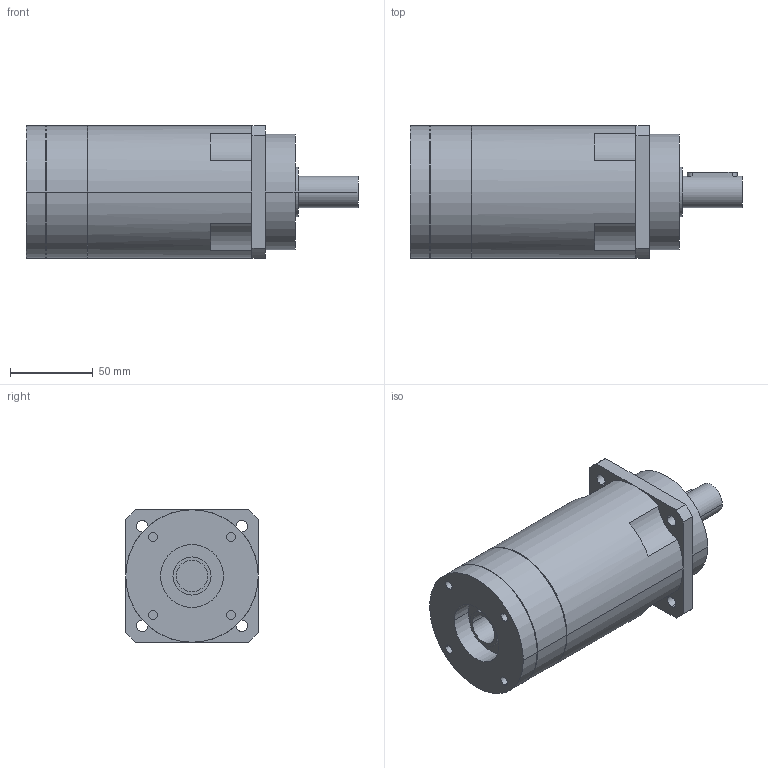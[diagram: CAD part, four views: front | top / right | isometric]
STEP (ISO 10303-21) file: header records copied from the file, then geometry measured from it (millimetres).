
FILE_DESCRIPTION(('CoCreate Modeling STEP Export'),'2;1');
FILE_NAME('GPR100_ig-48-64-80-100-120-144-180-216_19_B5_19_P01.stp','2014-08-26T11:56:40',(''),(''),'CoCreate Modeling STEP processor for AP214 (Solid Model)','CoCreate Modeling 16.00C 25-Feb-2009 (C) Parametric Technology GmbH','');
FILE_SCHEMA(('AUTOMOTIVE_DESIGN { 1 0 10303 214 1 1 1 1 }'));
Length unit declared in the file: millimetre
Products named in the file (2): GPR100_ig-48-64-80-100-120-144-180-216_19_B5_19_P01
Assembly tree (1 placements, depth 2):
  GPR100_ig-48-64-80-100-120-144-180-216_19_B5_19_P01
    GPR100_ig-48-64-80-100-120-144-180-216_19_B5_19_P01
Bounding box: 200.4 x 80 x 80 mm (x, y, z)
Volume: 784404 mm3; surface area: 62841.9 mm2
Topology: 1 solids, 1 shells, 93 faces, 245 edges, 169 vertices
Faces by surface type: cylinder 54, plane 33, cone 6
Entity records: 2549 total; most frequent: ORIENTED_EDGE 486, CARTESIAN_POINT 459, DIRECTION 366, EDGE_CURVE 243, VERTEX_POINT 169, AXIS2_PLACEMENT_3D 140, EDGE_LOOP 118, FACE_OUTER_BOUND 93
